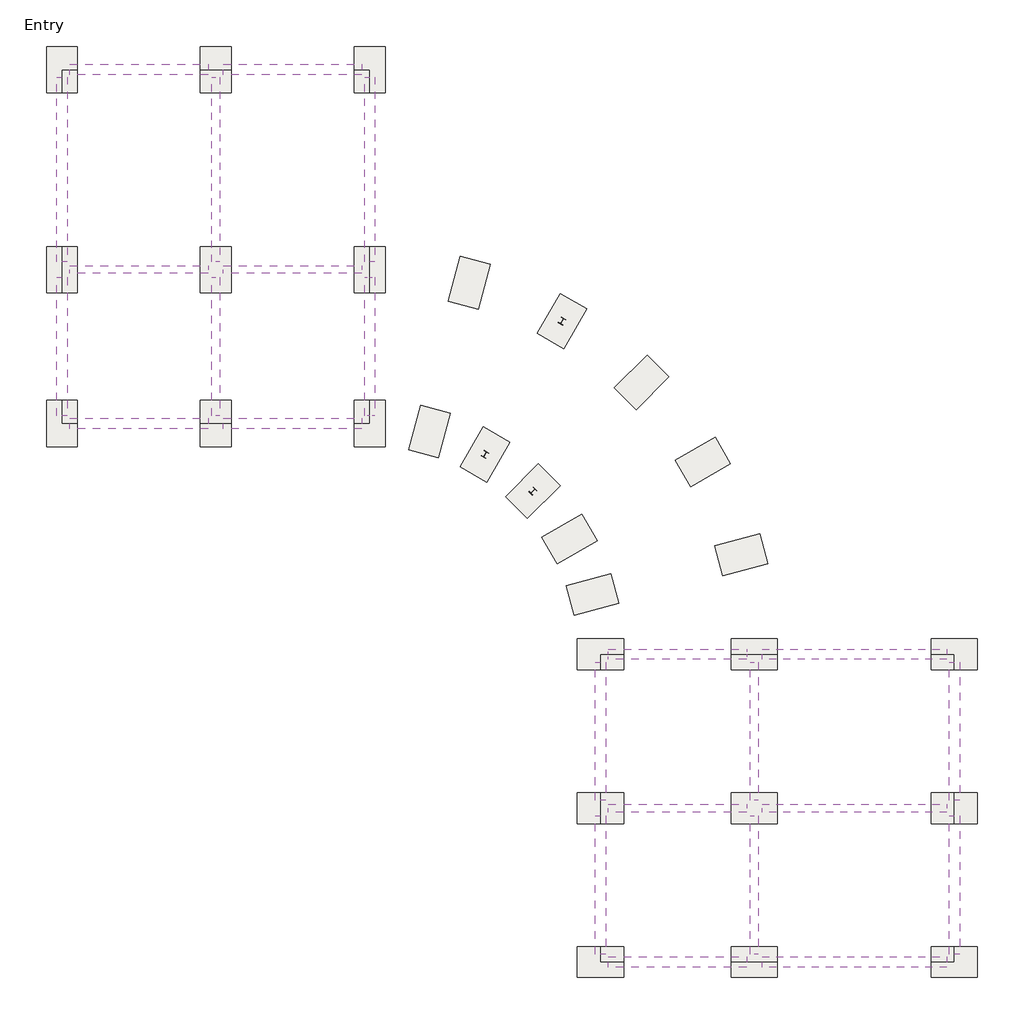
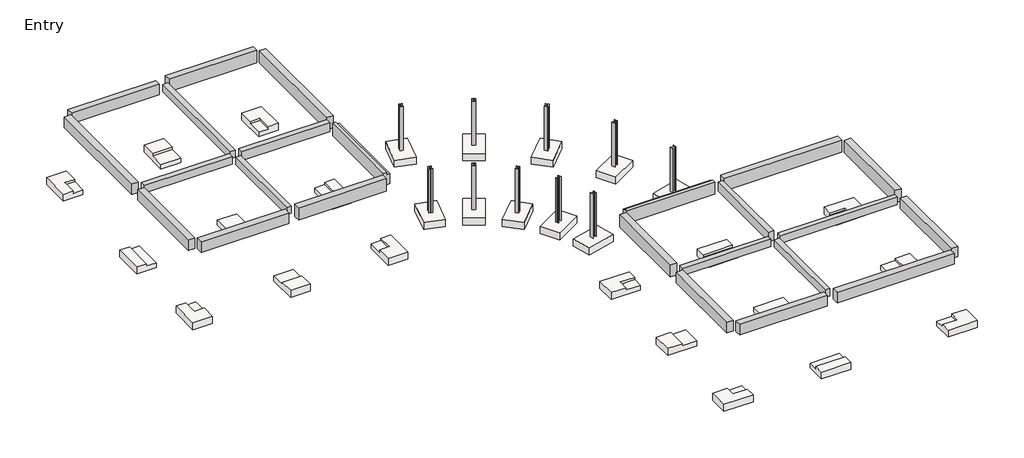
# One storey: 28 slabs, 24 beams, 10 columns.
"""IFC4 building model written with IfcOpenShell, lengths in millimetres."""

import ifcopenshell
import ifcopenshell.guid

model = None  # the IFC model being written
_history = None  # IfcOwnerHistory: only IFC2X3 demands one
_inside = {}  # id of a spatial element -> (the spatial element, [elements in it])
_under = {}  # id of a project, library or spatial element -> (it, [spatial elements below it])
_declared = {}  # id of a project -> (the project, [libraries it declares])
_typed = {}  # id of a type object -> (the type object, [elements of that type])
_made_of = {}  # id of a material, layer set ... -> (it, [elements and type objects made of it])


def new_model(schema):
    """Start an empty IFC model of exactly this schema.

    Asked for "IFC4X3", IfcOpenShell would pick the latest addendum, in which some entities
    have other attributes; the version numbers below select the first issue.
    IFC2X3 requires an IfcOwnerHistory on every rooted entity: one is made here for all.
    """
    global model, _history
    if schema == "IFC4X3":
        model = ifcopenshell.file(schema_version=(4, 3, 0, 0))
    else:
        model = ifcopenshell.file(schema=schema)
    _inside.clear()
    _under.clear()
    _declared.clear()
    _typed.clear()
    _made_of.clear()
    _history = None
    if model.schema == "IFC2X3":
        org = make("IfcOrganization", Name="unknown")
        user = make(
            "IfcPersonAndOrganization",
            ThePerson=make("IfcPerson", FamilyName="unknown"),
            TheOrganization=org,
        )
        app = make(
            "IfcApplication",
            ApplicationDeveloper=org,
            Version="unknown",
            ApplicationFullName="unknown",
            ApplicationIdentifier="unknown",
        )
        _history = make(
            "IfcOwnerHistory",
            OwningUser=user,
            OwningApplication=app,
            ChangeAction="ADDED",
            CreationDate=0,
        )
    return model


def make(cls, **values):
    """One entity of the class cls with the attributes given. An attribute that is None is left unset."""
    return model.create_entity(
        cls, **{name: value for name, value in values.items() if value is not None}
    )


def rooted(cls, **values):
    """An entity with a GlobalId (a new one), such as an element, a storey or a relation."""
    return make(cls, GlobalId=ifcopenshell.guid.new(), OwnerHistory=_history, **values)


def si_unit(unit_type, name, prefix=None):
    """IfcSIUnit, for example si_unit("LENGTHUNIT", "METRE", prefix="MILLI")."""
    return make("IfcSIUnit", UnitType=unit_type, Prefix=prefix, Name=name)


def assignment(units):
    """IfcUnitAssignment: the units of a project."""
    return None if units is None else make("IfcUnitAssignment", Units=units)


def point(xyz):
    """IfcCartesianPoint."""
    return None if xyz is None else make("IfcCartesianPoint", Coordinates=xyz)


def direction(xyz):
    """IfcDirection."""
    return None if xyz is None else make("IfcDirection", DirectionRatios=xyz)


def frame(location, z_axis=None, x_axis=None):
    """IfcAxis2Placement3D, a coordinate frame: its origin and axes. An axis left out is left unset."""
    return make(
        "IfcAxis2Placement3D",
        Location=point(location),
        Axis=direction(z_axis),
        RefDirection=direction(x_axis),
    )


def frame_2d(location, x_axis=None):
    """IfcAxis2Placement2D, a coordinate frame in the plane: its origin and x axis."""
    return make(
        "IfcAxis2Placement2D", Location=point(location), RefDirection=direction(x_axis)
    )


def origin():
    """The frame at (0, 0, 0) with its axes left unset."""
    return frame((0.0, 0.0, 0.0))


def origin_with_axes():
    """The frame at (0, 0, 0) with the z axis (0, 0, 1) and the x axis (1, 0, 0) written out."""
    return frame((0.0, 0.0, 0.0), z_axis=(0.0, 0.0, 1.0), x_axis=(1.0, 0.0, 0.0))


def place(relative_to, where):
    """IfcLocalPlacement: puts the frame where relative to a parent placement (None: the world)."""
    return make(
        "IfcLocalPlacement", PlacementRelTo=relative_to, RelativePlacement=where
    )


def context(
    kind, dimensions, precision=None, world=None, true_north=None, identifier=None
):
    """IfcGeometricRepresentationContext, for example the 3D "Model" context."""
    return make(
        "IfcGeometricRepresentationContext",
        ContextIdentifier=identifier,
        ContextType=kind,
        CoordinateSpaceDimension=dimensions,
        Precision=precision,
        WorldCoordinateSystem=world,
        TrueNorth=true_north,
    )


def project(units=None, contexts=None):
    """IfcProject with its units and contexts."""
    return rooted(
        "IfcProject",
        Name="project",
        RepresentationContexts=contexts,
        UnitsInContext=assignment(units),
    )


def spatial(cls, under=None, at=None, **own):
    """A site, building, storey or space (cls), placed at a placement, below another one or the project."""
    s = rooted(cls, ObjectPlacement=at, **own)
    if under is not None:
        _under.setdefault(under.id(), (under, []))[1].append(s)
    return s


def polyline(points):
    """IfcPolyline through the points."""
    return make("IfcPolyline", Points=[point(p) for p in points])


def circle_curve(where, radius):
    """IfcCircle in the frame where."""
    return make("IfcCircle", Position=where, Radius=radius)


def trimmed(basis, trim1, trim2, sense, master):
    """IfcTrimmedCurve: the piece of a basis curve between two trims."""
    return make(
        "IfcTrimmedCurve",
        BasisCurve=basis,
        Trim1=trim1,
        Trim2=trim2,
        SenseAgreement=sense,
        MasterRepresentation=master,
    )


def segment(curve, same_sense, transition):
    """IfcCompositeCurveSegment."""
    return make(
        "IfcCompositeCurveSegment",
        Transition=transition,
        SameSense=same_sense,
        ParentCurve=curve,
    )


def composite_curve(segments, self_intersect=None):
    """IfcCompositeCurve: segments joined end to end."""
    return make("IfcCompositeCurve", Segments=segments, SelfIntersect=self_intersect)


def outline(outer, holes=None, kind="AREA"):
    """IfcArbitraryClosedProfileDef: a profile drawn as a closed curve; with holes, ...WithVoids."""
    if holes is None:
        return make("IfcArbitraryClosedProfileDef", ProfileType=kind, OuterCurve=outer)
    return make(
        "IfcArbitraryProfileDefWithVoids",
        ProfileType=kind,
        OuterCurve=outer,
        InnerCurves=holes,
    )


def extrude(swept, where, along, depth):
    """IfcExtrudedAreaSolid: the profile swept, set in the frame where, extruded along a direction by depth."""
    return make(
        "IfcExtrudedAreaSolid",
        SweptArea=swept,
        Position=where,
        ExtrudedDirection=direction(along),
        Depth=depth,
    )


def faces_of(points, faces, orient=None, outer=None):
    """IfcFace entities. A face is a list of loops; a loop is a list of indices into points, from 0.

    orient and outer hold one flag for each loop. By default every Orientation is true, the
    first loop of a face is its IfcFaceOuterBound and the others are IfcFaceBound.
    """
    made = []
    for i, loops in enumerate(faces):
        bounds = []
        for j, loop in enumerate(loops):
            is_outer = j == 0 if outer is None else outer[i][j]
            bounds.append(
                make(
                    "IfcFaceOuterBound" if is_outer else "IfcFaceBound",
                    Bound=make("IfcPolyLoop", Polygon=[points[k] for k in loop]),
                    Orientation=True if orient is None else orient[i][j],
                )
            )
        made.append(make("IfcFace", Bounds=bounds))
    return made


def faceted_brep(points, faces, orient=None, outer=None, voids=None):
    """IfcFacetedBrep: a solid bounded by flat faces; with voids (closed shells), ...WithVoids."""
    shared = [point(p) for p in points]
    hull = make("IfcClosedShell", CfsFaces=faces_of(shared, faces, orient, outer))
    if voids is None:
        return make("IfcFacetedBrep", Outer=hull)
    return make(
        "IfcFacetedBrepWithVoids",
        Outer=hull,
        Voids=[
            make(cls, CfsFaces=faces_of(shared, fs, o, b)) for cls, fs, o, b in voids
        ],
    )


def shape(context_of_items, identifier, shape_type, items):
    """IfcShapeRepresentation: the items that make up one representation, for example the "Body"."""
    return make(
        "IfcShapeRepresentation",
        ContextOfItems=context_of_items,
        RepresentationIdentifier=identifier,
        RepresentationType=shape_type,
        Items=items,
    )


def source(mapping_origin, context_of_items, identifier, shape_type, items):
    """IfcRepresentationMap: a shape defined once, which mapped items show again and again."""
    return make(
        "IfcRepresentationMap",
        MappingOrigin=mapping_origin,
        MappedRepresentation=shape(context_of_items, identifier, shape_type, items),
    )


def transform(
    local_origin,
    x_axis=None,
    y_axis=None,
    z_axis=None,
    scale=None,
    scale2=None,
    scale3=None,
    uniform=True,
):
    """IfcCartesianTransformationOperator3D, or its non-uniform kind. x_axis, y_axis, z_axis: its Axis1, 2, 3."""
    if uniform:
        return make(
            "IfcCartesianTransformationOperator3D",
            Axis1=direction(x_axis),
            Axis2=direction(y_axis),
            LocalOrigin=point(local_origin),
            Scale=scale,
            Axis3=direction(z_axis),
        )
    return make(
        "IfcCartesianTransformationOperator3DnonUniform",
        Axis1=direction(x_axis),
        Axis2=direction(y_axis),
        LocalOrigin=point(local_origin),
        Scale=scale,
        Axis3=direction(z_axis),
        Scale2=scale2,
        Scale3=scale3,
    )


def mapped(mapping_source, mapping_target):
    """IfcMappedItem: shows the shape of a source again, moved by a transform."""
    return make(
        "IfcMappedItem", MappingSource=mapping_source, MappingTarget=mapping_target
    )


def made_of(thing, what):
    """Note that an element or type object is made of a material, layer set ...; save() writes the relation."""
    if what is not None:
        _made_of.setdefault(what.id(), (what, []))[1].append(thing)
    return thing


def element(
    cls,
    number,
    at=None,
    inside=None,
    cuts=None,
    type_object=None,
    material=None,
    context=None,
    identifier="Body",
    shape_type=None,
    held_by="IfcProductDefinitionShape",
    body=None,
    shapes=None,
    **own,
):
    """One element of the class cls, such as IfcWall. Its Tag is "e" and its number.

    at: its placement. inside: the storey or other place that contains it. cuts: it is an
    opening in that element (IfcRelVoidsElement). A single representation is given by context,
    identifier, shape_type and body (its items); several are given by shapes. held_by: the class
    of the entity that holds the representations. save() writes the other relations.
    """
    e = rooted(cls, Tag="e%d" % number, ObjectPlacement=at, **own)
    if body is not None:
        shapes = [shape(context, identifier, shape_type, body)]
    if shapes is not None:
        e.Representation = make(held_by, Representations=shapes)
    if inside is not None:
        _inside.setdefault(inside.id(), (inside, []))[1].append(e)
    if cuts is not None:
        rooted(
            "IfcRelVoidsElement", RelatingBuildingElement=cuts, RelatedOpeningElement=e
        )
    if type_object is not None:
        _typed.setdefault(type_object.id(), (type_object, []))[1].append(e)
    return made_of(e, material)


def aggregate(whole, parts):
    """IfcRelAggregates: a whole, such as a stair, and the parts it consists of."""
    return rooted("IfcRelAggregates", RelatingObject=whole, RelatedObjects=parts)


def save(model, path):
    """Write the relations noted so far, then the file.

    IfcRelAggregates (storeys below a building ...), IfcRelContainedInSpatialStructure (elements
    in a storey), IfcRelDefinesByType, IfcRelAssociatesMaterial and IfcRelDeclares: one each for
    every whole, place, type object, material and project.
    """
    for whole, parts in _under.values():
        aggregate(whole, parts)
    for where, things in _inside.values():
        rooted(
            "IfcRelContainedInSpatialStructure",
            RelatedElements=things,
            RelatingStructure=where,
        )
    for kind, things in _typed.values():
        rooted("IfcRelDefinesByType", RelatedObjects=things, RelatingType=kind)
    for what, things in _made_of.values():
        rooted("IfcRelAssociatesMaterial", RelatedObjects=things, RelatingMaterial=what)
    for by, libraries in _declared.values():
        rooted("IfcRelDeclares", RelatingContext=by, RelatedDefinitions=libraries)
    model.write(path)


def w_wide_flange_column_w10x33_dc02cfa5(model_context):
    return source(origin(), model_context, "Body", "SweptSolid", [
        extrude(outline(composite_curve([segment(polyline([(101.1039062, 123.5769531), (101.1039062, 112.5636719), (21.2328125, 112.5636719)]), True, "CONTINUOUS"), segment(trimmed(circle_curve(frame_2d((21.2328125, 95.0019531)), 17.5617188), [point((21.2328125, 112.5636719))], [point((3.6710937, 95.0019531))], True, "CARTESIAN"), True, "CONTINUOUS"), segment(polyline([(3.6710937, 95.0019531), (3.6710937, -95.0019531)]), True, "CONTINUOUS"), segment(trimmed(circle_curve(frame_2d((21.2328125, -95.0019531)), 17.5617188), [point((3.6710937, -95.0019531))], [point((21.2328125, -112.5636719))], True, "CARTESIAN"), True, "CONTINUOUS"), segment(polyline([(21.2328125, -112.5636719), (101.1039062, -112.5636719), (101.1039062, -123.5769531), (-101.1039063, -123.5769531), (-101.1039063, -112.5636719), (-21.2328125, -112.5636719)]), True, "CONTINUOUS"), segment(trimmed(circle_curve(frame_2d((-21.2328125, -95.0019531)), 17.5617188), [point((-21.2328125, -112.5636719))], [point((-3.6710938, -95.0019531))], True, "CARTESIAN"), True, "CONTINUOUS"), segment(polyline([(-3.6710938, -95.0019531), (-3.6710938, 95.0019531)]), True, "CONTINUOUS"), segment(trimmed(circle_curve(frame_2d((-21.2328125, 95.0019531)), 17.5617188), [point((-3.6710938, 95.0019531))], [point((-21.2328125, 112.5636719))], True, "CARTESIAN"), True, "CONTINUOUS"), segment(polyline([(-21.2328125, 112.5636719), (-101.1039063, 112.5636719), (-101.1039063, 123.5769531), (101.1039062, 123.5769531)]), True, "CONTINUOUS")], self_intersect=False)), origin_with_axes(), (0.0, 0.0, 1.0), 2921.0),
    ])


def slab_5ba74754(model_context):
    return source(origin(), model_context, "Body", "SweptSolid", [
        extrude(outline(polyline([(609.6, 914.4), (609.6, -914.4), (-609.6, -914.4), (-609.6, 914.4), (609.6, 914.4)])), frame((0.0, 0.0, -457.2), z_axis=(0.0, 0.0, 1.0), x_axis=(1.0, 0.0, 0.0)), (0.0, 0.0, 1.0), 457.2),
    ])


model = new_model("IFC4")

# Units and contexts
model_context = context("Model", 3, world=origin())
ifc_project = project(units=[si_unit("LENGTHUNIT", "METRE", prefix="MILLI")], contexts=[model_context])

# Site, building, storey
site = spatial("IfcSite", under=ifc_project)
building = spatial("IfcBuilding", under=site)
storey = spatial("IfcBuildingStorey", under=building, Name="Entry", Elevation=0.0)

# Beams
placement = place(None, origin())
element("IfcBeam", 1, ObjectType="Concrete-Rectangular Beam : 12 x 24", at=placement, inside=storey, context=model_context, shape_type="SweptSolid", body=[
    extrude(outline(polyline([(-34903.4783408, 12122.2963551), (-34598.6783408, 12122.2963551), (-34598.6783408, 4807.0963551), (-34903.4783408, 4807.0963551), (-34903.4783408, 12122.2963551)])), frame((0.0, 0.0, 2438.4), z_axis=(0.0, 0.0, 1.0), x_axis=(1.0, 0.0, 0.0)), (0.0, 0.0, 1.0), 488.95),
])
element("IfcBeam", 2, ObjectType="Concrete-Rectangular Beam : 12 x 24", at=placement, inside=storey, context=model_context, shape_type="SweptSolid", body=[
    extrude(outline(polyline([(-34903.4783408, 4197.4963551), (-34598.6783408, 4197.4963551), (-34598.6783408, -1288.9036449), (-34903.4783408, -1288.9036449), (-34903.4783408, 4197.4963551)])), frame((0.0, 0.0, 2438.4), z_axis=(0.0, 0.0, 1.0), x_axis=(1.0, 0.0, 0.0)), (0.0, 0.0, 1.0), 488.95),
])
element("IfcBeam", 3, ObjectType="Concrete-Rectangular Beam : 12 x 24", at=placement, inside=storey, context=model_context, shape_type="SweptSolid", body=[
    extrude(outline(polyline([(-35055.8783408, 4654.6963551), (-35055.8783408, 4349.8963551), (-40542.2783408, 4349.8963551), (-40542.2783408, 4654.6963551), (-35055.8783408, 4654.6963551)])), frame((0.0, 0.0, 2438.4), z_axis=(0.0, 0.0, 1.0), x_axis=(1.0, 0.0, 0.0)), (0.0, 0.0, 1.0), 488.95),
])
element("IfcBeam", 4, ObjectType="Concrete-Rectangular Beam : 12 x 24", at=placement, inside=storey, context=model_context, shape_type="SweptSolid", body=[
    extrude(outline(polyline([(-34446.2783408, 4349.8963551), (-34446.2783408, 4654.6963551), (-28959.8783408, 4654.6963551), (-28959.8783408, 4349.8963551), (-34446.2783408, 4349.8963551)])), frame((0.0, 0.0, 2438.4), z_axis=(0.0, 0.0, 1.0), x_axis=(1.0, 0.0, 0.0)), (0.0, 0.0, 1.0), 609.6),
])
element("IfcBeam", 5, ObjectType="Concrete-Rectangular Beam : 12 x 24", at=placement, inside=storey, context=model_context, shape_type="SweptSolid", body=[
    extrude(outline(polyline([(-13110.2783408, -16986.1036449), (-13110.2783408, -16681.3036449), (-5795.0783408, -16681.3036449), (-5795.0783408, -16986.1036449), (-13110.2783408, -16986.1036449)])), frame((0.0, 0.0, 2438.4), z_axis=(0.0, 0.0, 1.0), x_axis=(1.0, 0.0, 0.0)), (0.0, 0.0, 1.0), 488.95),
])
element("IfcBeam", 6, ObjectType="Concrete-Rectangular Beam : 12 x 24", at=placement, inside=storey, context=model_context, shape_type="SweptSolid", body=[
    extrude(outline(polyline([(-19206.2783408, -16986.1036449), (-19206.2783408, -16681.3036449), (-13719.8783408, -16681.3036449), (-13719.8783408, -16986.1036449), (-19206.2783408, -16986.1036449)])), frame((0.0, 0.0, 2438.4), z_axis=(0.0, 0.0, 1.0), x_axis=(1.0, 0.0, 0.0)), (0.0, 0.0, 1.0), 488.95),
])
element("IfcBeam", 7, ObjectType="Concrete-Rectangular Beam : 12 x 24", at=placement, inside=storey, context=model_context, shape_type="SweptSolid", body=[
    extrude(outline(polyline([(-13567.4783408, -17138.5036449), (-13262.6783408, -17138.5036449), (-13262.6783408, -22624.9036449), (-13567.4783408, -22624.9036449), (-13567.4783408, -17138.5036449)])), frame((0.0, 0.0, 2438.4), z_axis=(0.0, 0.0, 1.0), x_axis=(1.0, 0.0, 0.0)), (0.0, 0.0, 1.0), 488.95),
])
element("IfcBeam", 8, ObjectType="Concrete-Rectangular Beam : 12 x 24", at=placement, inside=storey, context=model_context, shape_type="SweptSolid", body=[
    extrude(outline(polyline([(-13262.6783408, -16528.9036449), (-13567.4783408, -16528.9036449), (-13567.4783408, -11042.5036449), (-13262.6783408, -11042.5036449), (-13262.6783408, -16528.9036449)])), frame((0.0, 0.0, 2438.4), z_axis=(0.0, 0.0, 1.0), x_axis=(1.0, 0.0, 0.0)), (0.0, 0.0, 1.0), 609.6),
])
element("IfcBeam", 9, ObjectType="Concrete-Rectangular Beam : 16 x 32", at=placement, inside=storey, context=model_context, shape_type="SweptSolid", body=[
    extrude(outline(polyline([(-40542.2783408, 12223.8963551), (-40542.2783408, 12630.2963551), (-35055.8783408, 12630.2963551), (-35055.8783408, 12223.8963551), (-40542.2783408, 12223.8963551)])), frame((0.0, 0.0, 2235.2), z_axis=(0.0, 0.0, 1.0), x_axis=(1.0, 0.0, 0.0)), (0.0, 0.0, 1.0), 692.15),
])
element("IfcBeam", 10, ObjectType="Concrete-Rectangular Beam : 16 x 32", at=placement, inside=storey, context=model_context, shape_type="SweptSolid", body=[
    extrude(outline(polyline([(-34446.2783408, 12223.8963551), (-34446.2783408, 12630.2963551), (-28959.8783408, 12630.2963551), (-28959.8783408, 12223.8963551), (-34446.2783408, 12223.8963551)])), frame((0.0, 0.0, 2235.2), z_axis=(0.0, 0.0, 1.0), x_axis=(1.0, 0.0, 0.0)), (0.0, 0.0, 1.0), 812.8),
])
element("IfcBeam", 11, ObjectType="Concrete-Rectangular Beam : 16 x 32", at=placement, inside=storey, context=model_context, shape_type="SweptSolid", body=[
    extrude(outline(polyline([(-28451.8783408, 4807.0963551), (-28858.2783408, 4807.0963551), (-28858.2783408, 12122.2963551), (-28451.8783408, 12122.2963551), (-28451.8783408, 4807.0963551)])), frame((0.0, 0.0, 2235.2), z_axis=(0.0, 0.0, 1.0), x_axis=(1.0, 0.0, 0.0)), (0.0, 0.0, 1.0), 812.8),
])
element("IfcBeam", 12, ObjectType="Concrete-Rectangular Beam : 16 x 32", at=placement, inside=storey, context=model_context, shape_type="SweptSolid", body=[
    extrude(outline(polyline([(3048.0, -28858.2783408), (2235.2, -28858.2783408), (2235.2, -28451.8783408), (2921.0, -28451.8783408), (2921.0, -28655.0783408), (3048.0, -28655.0783408), (3048.0, -28858.2783408)])), frame((0.0, -1288.9036449, 0.0), z_axis=(0.0, 1.0, 0.0), x_axis=(0.0, 0.0, 1.0)), (0.0, 0.0, 1.0), 5486.4),
])
element("IfcBeam", 13, ObjectType="Concrete-Rectangular Beam : 16 x 32", at=placement, inside=storey, context=model_context, shape_type="SweptSolid", body=[
    extrude(outline(polyline([(-34446.2783408, -1796.9036449), (-34446.2783408, -1390.5036449), (-28959.8783408, -1390.5036449), (-28959.8783408, -1796.9036449), (-34446.2783408, -1796.9036449)])), frame((0.0, 0.0, 2235.2), z_axis=(0.0, 0.0, 1.0), x_axis=(1.0, 0.0, 0.0)), (0.0, 0.0, 1.0), 812.8),
])
element("IfcBeam", 14, ObjectType="Concrete-Rectangular Beam : 16 x 32", at=placement, inside=storey, context=model_context, shape_type="SweptSolid", body=[
    extrude(outline(polyline([(-35055.8783408, -1390.5036449), (-35055.8783408, -1796.9036449), (-40542.2783408, -1796.9036449), (-40542.2783408, -1390.5036449), (-35055.8783408, -1390.5036449)])), frame((0.0, 0.0, 2235.2), z_axis=(0.0, 0.0, 1.0), x_axis=(1.0, 0.0, 0.0)), (0.0, 0.0, 1.0), 692.15),
])
element("IfcBeam", 15, ObjectType="Concrete-Rectangular Beam : 16 x 32", at=placement, inside=storey, context=model_context, shape_type="SweptSolid", body=[
    extrude(outline(polyline([(-40643.8783408, -1288.9036449), (-41050.2783408, -1288.9036449), (-41050.2783408, 4197.4963551), (-40643.8783408, 4197.4963551), (-40643.8783408, -1288.9036449)])), frame((0.0, 0.0, 2235.2), z_axis=(0.0, 0.0, 1.0), x_axis=(1.0, 0.0, 0.0)), (0.0, 0.0, 1.0), 692.15),
])
element("IfcBeam", 16, ObjectType="Concrete-Rectangular Beam : 16 x 32", at=placement, inside=storey, context=model_context, shape_type="SweptSolid", body=[
    extrude(outline(polyline([(-40643.8783408, 4807.0963551), (-41050.2783408, 4807.0963551), (-41050.2783408, 12122.2963551), (-40643.8783408, 12122.2963551), (-40643.8783408, 4807.0963551)])), frame((0.0, 0.0, 2235.2), z_axis=(0.0, 0.0, 1.0), x_axis=(1.0, 0.0, 0.0)), (0.0, 0.0, 1.0), 692.15),
])
element("IfcBeam", 17, ObjectType="Concrete-Rectangular Beam : 16 x 32", at=placement, inside=storey, context=model_context, shape_type="SweptSolid", body=[
    extrude(outline(polyline([(-5693.4783408, -17138.5036449), (-5287.0783408, -17138.5036449), (-5287.0783408, -22624.9036449), (-5693.4783408, -22624.9036449), (-5693.4783408, -17138.5036449)])), frame((0.0, 0.0, 2235.2), z_axis=(0.0, 0.0, 1.0), x_axis=(1.0, 0.0, 0.0)), (0.0, 0.0, 1.0), 692.15),
])
element("IfcBeam", 18, ObjectType="Concrete-Rectangular Beam : 16 x 32", at=placement, inside=storey, context=model_context, shape_type="SweptSolid", body=[
    extrude(outline(polyline([(-5287.0783408, -16528.9036449), (-5693.4783408, -16528.9036449), (-5693.4783408, -11042.5036449), (-5287.0783408, -11042.5036449), (-5287.0783408, -16528.9036449)])), frame((0.0, 0.0, 2235.2), z_axis=(0.0, 0.0, 1.0), x_axis=(1.0, 0.0, 0.0)), (0.0, 0.0, 1.0), 812.8),
])
element("IfcBeam", 19, ObjectType="Concrete-Rectangular Beam : 16 x 32", at=placement, inside=storey, context=model_context, shape_type="SweptSolid", body=[
    extrude(outline(polyline([(-13110.2783408, -10940.9036449), (-13110.2783408, -10534.5036449), (-5795.0783408, -10534.5036449), (-5795.0783408, -10940.9036449), (-13110.2783408, -10940.9036449)])), frame((0.0, 0.0, 2235.2), z_axis=(0.0, 0.0, 1.0), x_axis=(1.0, 0.0, 0.0)), (0.0, 0.0, 1.0), 812.8),
])
element("IfcBeam", 20, ObjectType="Concrete-Rectangular Beam : 16 x 32", at=placement, inside=storey, context=model_context, shape_type="SweptSolid", body=[
    extrude(outline(polyline([(-10940.9036449, 3048.0), (-10737.7036449, 3048.0), (-10737.7036449, 2921.0), (-10534.5036449, 2921.0), (-10534.5036449, 2235.2), (-10940.9036449, 2235.2), (-10940.9036449, 3048.0)])), frame((-19206.2783408, 0.0, 0.0), z_axis=(1.0, 0.0, 0.0), x_axis=(0.0, 1.0, 0.0)), (0.0, 0.0, 1.0), 5486.4),
])
element("IfcBeam", 21, ObjectType="Concrete-Rectangular Beam : 16 x 32", at=placement, inside=storey, context=model_context, shape_type="SweptSolid", body=[
    extrude(outline(polyline([(-19307.8783408, -16528.9036449), (-19714.2783408, -16528.9036449), (-19714.2783408, -11042.5036449), (-19307.8783408, -11042.5036449), (-19307.8783408, -16528.9036449)])), frame((0.0, 0.0, 2235.2), z_axis=(0.0, 0.0, 1.0), x_axis=(1.0, 0.0, 0.0)), (0.0, 0.0, 1.0), 812.8),
])
element("IfcBeam", 22, ObjectType="Concrete-Rectangular Beam : 16 x 32", at=placement, inside=storey, context=model_context, shape_type="SweptSolid", body=[
    extrude(outline(polyline([(-19714.2783408, -17138.5036449), (-19307.8783408, -17138.5036449), (-19307.8783408, -22624.9036449), (-19714.2783408, -22624.9036449), (-19714.2783408, -17138.5036449)])), frame((0.0, 0.0, 2235.2), z_axis=(0.0, 0.0, 1.0), x_axis=(1.0, 0.0, 0.0)), (0.0, 0.0, 1.0), 692.15),
])
element("IfcBeam", 23, ObjectType="Concrete-Rectangular Beam : 16 x 32", at=placement, inside=storey, context=model_context, shape_type="SweptSolid", body=[
    extrude(outline(polyline([(-19206.2783408, -23132.9036449), (-19206.2783408, -22726.5036449), (-13719.8783408, -22726.5036449), (-13719.8783408, -23132.9036449), (-19206.2783408, -23132.9036449)])), frame((0.0, 0.0, 2235.2), z_axis=(0.0, 0.0, 1.0), x_axis=(1.0, 0.0, 0.0)), (0.0, 0.0, 1.0), 692.15),
])
element("IfcBeam", 24, ObjectType="Concrete-Rectangular Beam : 16 x 32", at=placement, inside=storey, context=model_context, shape_type="SweptSolid", body=[
    extrude(outline(polyline([(-13110.2783408, -23132.9036449), (-13110.2783408, -22726.5036449), (-5795.0783408, -22726.5036449), (-5795.0783408, -23132.9036449), (-13110.2783408, -23132.9036449)])), frame((0.0, 0.0, 2235.2), z_axis=(0.0, 0.0, 1.0), x_axis=(1.0, 0.0, 0.0)), (0.0, 0.0, 1.0), 692.15),
])

# Columns
w_wide_flange_column_w10x33_shape = w_wide_flange_column_w10x33_dc02cfa5(model_context)
element("IfcColumn", 25, ObjectType="W-Wide Flange-Column : W10X33", at=placement, inside=storey, context=model_context, shape_type="MappedRepresentation", body=[
    mapped(w_wide_flange_column_w10x33_shape, transform((-20736.1420486, -6165.7036449, 0.0), x_axis=(-0.4999999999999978, 0.8660254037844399, 0.0), y_axis=(-0.8660254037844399, -0.4999999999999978, 0.0), z_axis=(0.0, 0.0, 1.0))),
])
element("IfcColumn", 26, ObjectType="W-Wide Flange-Column : W10X33", at=placement, inside=storey, context=model_context, shape_type="MappedRepresentation", body=[
    mapped(w_wide_flange_column_w10x33_shape, transform((-24083.0783408, -2818.7673527, 0.0), x_axis=(0.8660254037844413, -0.49999999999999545, 0.0), y_axis=(0.49999999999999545, 0.8660254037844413, 0.0), z_axis=(0.0, 0.0, 1.0))),
])
element("IfcColumn", 27, ObjectType="W-Wide Flange-Column : W10X33", at=placement, inside=storey, context=model_context, shape_type="MappedRepresentation", body=[
    mapped(w_wide_flange_column_w10x33_shape, transform((-26288.4369924, -1905.2778893, 0.0), x_axis=(0.9659258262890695, -0.258819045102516, 0.0), y_axis=(0.258819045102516, 0.9659258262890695, 0.0), z_axis=(0.0, 0.0, 1.0))),
])
element("IfcColumn", 28, ObjectType="W-Wide Flange-Column : W10X33", at=placement, inside=storey, context=model_context, shape_type="MappedRepresentation", body=[
    mapped(w_wide_flange_column_w10x33_shape, transform((-15456.8511871, -3117.7036449, 0.0), x_axis=(-0.4999999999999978, 0.8660254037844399, 0.0), y_axis=(-0.8660254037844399, -0.4999999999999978, 0.0), z_axis=(0.0, 0.0, 1.0))),
])
element("IfcColumn", 29, ObjectType="W-Wide Flange-Column : W10X33", at=placement, inside=storey, context=model_context, shape_type="MappedRepresentation", body=[
    mapped(w_wide_flange_column_w10x33_shape, transform((-21035.0783408, 2460.5235088, 0.0), x_axis=(0.8660254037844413, -0.49999999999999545, 0.0), y_axis=(0.49999999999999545, 0.8660254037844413, 0.0), z_axis=(0.0, 0.0, 1.0))),
])
element("IfcColumn", 30, ObjectType="W-Wide Flange-Column : W10X33", at=placement, inside=storey, context=model_context, shape_type="MappedRepresentation", body=[
    mapped(w_wide_flange_column_w10x33_shape, transform((-24710.6760935, 3983.0059477, 0.0), x_axis=(0.9659258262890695, -0.258819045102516, 0.0), y_axis=(0.258819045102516, 0.9659258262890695, 0.0), z_axis=(0.0, 0.0, 1.0))),
])
element("IfcColumn", 31, ObjectType="W-Wide Flange-Column : W10X33", at=placement, inside=storey, context=model_context, shape_type="MappedRepresentation", body=[
    mapped(w_wide_flange_column_w10x33_shape, transform((-22189.2939336, -4271.9192377, 0.0), x_axis=(0.7071067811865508, -0.7071067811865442, 0.0), y_axis=(0.7071067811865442, 0.7071067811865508, 0.0), z_axis=(0.0, 0.0, 1.0))),
])
element("IfcColumn", 32, ObjectType="W-Wide Flange-Column : W10X33", at=placement, inside=storey, context=model_context, shape_type="MappedRepresentation", body=[
    mapped(w_wide_flange_column_w10x33_shape, transform((-17878.7709955, 38.6037004, 0.0), x_axis=(0.7071067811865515, -0.7071067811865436, 0.0), y_axis=(0.7071067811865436, 0.7071067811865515, 0.0), z_axis=(0.0, 0.0, 1.0))),
])
element("IfcColumn", 33, ObjectType="W-Wide Flange-Column : W10X33", at=placement, inside=storey, context=model_context, shape_type="MappedRepresentation", body=[
    mapped(w_wide_flange_column_w10x33_shape, transform((-19822.6525852, -8371.0622965, 0.0), x_axis=(-0.2588190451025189, 0.9659258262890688, 0.0), y_axis=(-0.9659258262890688, -0.2588190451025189, 0.0), z_axis=(0.0, 0.0, 1.0))),
])
element("IfcColumn", 34, ObjectType="W-Wide Flange-Column : W10X33", at=placement, inside=storey, context=model_context, shape_type="MappedRepresentation", body=[
    mapped(w_wide_flange_column_w10x33_shape, transform((-13934.3687482, -6793.3013975, 0.0), x_axis=(-0.2588190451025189, 0.9659258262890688, 0.0), y_axis=(-0.9659258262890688, -0.2588190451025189, 0.0), z_axis=(0.0, 0.0, 1.0))),
])

# Slabs
element("IfcSlab", 35, ObjectType="Footing-Rectangular : 72\" x 48\" x 18\"", at=placement, inside=storey, context=model_context, shape_type="Brep", body=[
    faceted_brep([(-40237.4783408, 13341.4963551, -1676.4), (-41456.6783408, 13341.4963551, -1676.4), (-41456.6783408, 11512.6963551, -1676.4), (-40847.0783408, 11512.6963551, -1676.4), (-40847.0783408, 12427.0963551, -1676.4), (-40237.4783408, 12427.0963551, -1676.4), (-41456.6783408, 11512.6963551, -2133.6), (-41456.6783408, 13341.4963551, -2133.6), (-40237.4783408, 13341.4963551, -2133.6), (-40237.4783408, 11512.6963551, -2133.6), (-40237.4783408, 11512.6963551, -1828.8), (-40847.0783408, 11512.6963551, -1828.8), (-40237.4783408, 12427.0963551, -1828.8), (-40847.0783408, 12427.0963551, -1828.8)], [[[0, 1, 2, 3, 4, 5]], [[6, 7, 8, 9]], [[6, 9, 10, 11, 3, 2]], [[9, 8, 0, 5, 12, 10]], [[1, 0, 8, 7]], [[2, 1, 7, 6]], [[12, 13, 11, 10]], [[13, 4, 3, 11]], [[4, 13, 12, 5]]]),
])
element("IfcSlab", 36, ObjectType="Footing-Rectangular : 72\" x 48\" x 18\"", at=placement, inside=storey, context=model_context, shape_type="SweptSolid", body=[
    extrude(outline(polyline([(13341.4963551, -2133.6), (11512.6963551, -2133.6), (11512.6963551, -1828.8), (12427.0963551, -1828.8), (12427.0963551, -1676.4), (13341.4963551, -1676.4), (13341.4963551, -2133.6)])), frame((-35360.6783408, 0.0, 0.0), z_axis=(1.0, 0.0, 0.0), x_axis=(0.0, 1.0, 0.0)), (0.0, 0.0, 1.0), 1219.2),
])
element("IfcSlab", 37, ObjectType="Footing-Rectangular : 72\" x 48\" x 18\"", at=placement, inside=storey, context=model_context, shape_type="Brep", body=[
    faceted_brep([(-28045.4783408, 11512.6963551, -1676.4), (-28045.4783408, 13341.4963551, -1676.4), (-29264.6783408, 13341.4963551, -1676.4), (-29264.6783408, 12427.0963551, -1676.4), (-28655.0783408, 12427.0963551, -1676.4), (-28655.0783408, 11512.6963551, -1676.4), (-29264.6783408, 11512.6963551, -2133.6), (-29264.6783408, 13341.4963551, -2133.6), (-28045.4783408, 13341.4963551, -2133.6), (-28045.4783408, 11512.6963551, -2133.6), (-28655.0783408, 11512.6963551, -1828.8), (-29264.6783408, 11512.6963551, -1828.8), (-29264.6783408, 12427.0963551, -1828.8), (-28655.0783408, 12427.0963551, -1828.8)], [[[0, 1, 2, 3, 4, 5]], [[6, 7, 8, 9]], [[6, 9, 0, 5, 10, 11]], [[1, 0, 9, 8]], [[2, 1, 8, 7]], [[7, 6, 11, 12, 3, 2]], [[13, 12, 11, 10]], [[4, 13, 10, 5]], [[13, 4, 3, 12]]]),
])
element("IfcSlab", 38, ObjectType="Footing-Rectangular : 72\" x 48\" x 18\"", at=placement, inside=storey, context=model_context, shape_type="SweptSolid", body=[
    extrude(outline(polyline([(-2133.6, -29264.6783408), (-2133.6, -28045.4783408), (-1676.4, -28045.4783408), (-1676.4, -28655.0783408), (-1828.8, -28655.0783408), (-1828.8, -29264.6783408), (-2133.6, -29264.6783408)])), frame((0.0, 3587.8963551, 0.0), z_axis=(0.0, 1.0, 0.0), x_axis=(0.0, 0.0, 1.0)), (0.0, 0.0, 1.0), 1828.8),
])
element("IfcSlab", 39, ObjectType="Footing-Rectangular : 72\" x 48\" x 18\"", at=placement, inside=storey, context=model_context, shape_type="SweptSolid", body=[
    extrude(outline(polyline([(-35360.6783408, 3587.8963551), (-35360.6783408, 5416.6963551), (-34141.4783408, 5416.6963551), (-34141.4783408, 3587.8963551), (-35360.6783408, 3587.8963551)])), frame((0.0, 0.0, -2133.6), z_axis=(0.0, 0.0, 1.0), x_axis=(1.0, 0.0, 0.0)), (0.0, 0.0, 1.0), 304.8),
])
element("IfcSlab", 40, ObjectType="Footing-Rectangular : 72\" x 48\" x 18\"", at=placement, inside=storey, context=model_context, shape_type="SweptSolid", body=[
    extrude(outline(polyline([(-2133.6, -41456.6783408), (-2133.6, -40237.4783408), (-1828.8, -40237.4783408), (-1828.8, -40847.0783408), (-1676.4, -40847.0783408), (-1676.4, -41456.6783408), (-2133.6, -41456.6783408)])), frame((0.0, 3587.8963551, 0.0), z_axis=(0.0, 1.0, 0.0), x_axis=(0.0, 0.0, 1.0)), (0.0, 0.0, 1.0), 1828.8),
])
element("IfcSlab", 41, ObjectType="Footing-Rectangular : 72\" x 48\" x 18\"", at=placement, inside=storey, context=model_context, shape_type="Brep", body=[
    faceted_brep([(-29264.6783408, -2508.1036449, -1676.4), (-28045.4783408, -2508.1036449, -1676.4), (-28045.4783408, -679.3036449, -1676.4), (-28655.0783408, -679.3036449, -1676.4), (-28655.0783408, -1593.7036449, -1676.4), (-29264.6783408, -1593.7036449, -1676.4), (-29264.6783408, -2508.1036449, -2133.6), (-29264.6783408, -679.3036449, -2133.6), (-28045.4783408, -679.3036449, -2133.6), (-28045.4783408, -2508.1036449, -2133.6), (-29264.6783408, -679.3036449, -1828.8), (-28655.0783408, -679.3036449, -1828.8), (-29264.6783408, -1593.7036449, -1828.8), (-28655.0783408, -1593.7036449, -1828.8)], [[[0, 1, 2, 3, 4, 5]], [[6, 7, 8, 9]], [[1, 0, 6, 9]], [[2, 1, 9, 8]], [[8, 7, 10, 11, 3, 2]], [[7, 6, 0, 5, 12, 10]], [[12, 13, 11, 10]], [[13, 4, 3, 11]], [[4, 13, 12, 5]]]),
])
element("IfcSlab", 42, ObjectType="Footing-Rectangular : 72\" x 48\" x 18\"", at=placement, inside=storey, context=model_context, shape_type="SweptSolid", body=[
    extrude(outline(polyline([(-679.3036449, -2133.6), (-2508.1036449, -2133.6), (-2508.1036449, -1676.4), (-1593.7036449, -1676.4), (-1593.7036449, -1828.8), (-679.3036449, -1828.8), (-679.3036449, -2133.6)])), frame((-35360.6783408, 0.0, 0.0), z_axis=(1.0, 0.0, 0.0), x_axis=(0.0, 1.0, 0.0)), (0.0, 0.0, 1.0), 1219.2),
])
element("IfcSlab", 43, ObjectType="Footing-Rectangular : 72\" x 48\" x 18\"", at=placement, inside=storey, context=model_context, shape_type="Brep", body=[
    faceted_brep([(-41456.6783408, -2508.1036449, -1676.4), (-40237.4783408, -2508.1036449, -1676.4), (-40237.4783408, -1593.7036449, -1676.4), (-40847.0783408, -1593.7036449, -1676.4), (-40847.0783408, -679.3036449, -1676.4), (-41456.6783408, -679.3036449, -1676.4), (-41456.6783408, -2508.1036449, -2133.6), (-41456.6783408, -679.3036449, -2133.6), (-40237.4783408, -679.3036449, -2133.6), (-40237.4783408, -2508.1036449, -2133.6), (-40237.4783408, -679.3036449, -1828.8), (-40237.4783408, -1593.7036449, -1828.8), (-40847.0783408, -679.3036449, -1828.8), (-40847.0783408, -1593.7036449, -1828.8)], [[[0, 1, 2, 3, 4, 5]], [[6, 7, 8, 9]], [[1, 0, 6, 9]], [[9, 8, 10, 11, 2, 1]], [[8, 7, 5, 4, 12, 10]], [[0, 5, 7, 6]], [[12, 13, 11, 10]], [[13, 3, 2, 11]], [[3, 13, 12, 4]]]),
])
element("IfcSlab", 44, ObjectType="Footing-Rectangular : 72\" x 48\" x 18\"", at=placement, inside=storey, context=model_context, shape_type="Brep", body=[
    faceted_brep([(-4575.8783408, -23539.3036449, -1676.4), (-4575.8783408, -22320.1036449, -1676.4), (-5490.2783408, -22320.1036449, -1676.4), (-5490.2783408, -22929.7036449, -1676.4), (-6404.6783408, -22929.7036449, -1676.4), (-6404.6783408, -23539.3036449, -1676.4), (-4575.8783408, -23539.3036449, -2133.6), (-6404.6783408, -23539.3036449, -2133.6), (-6404.6783408, -22320.1036449, -2133.6), (-4575.8783408, -22320.1036449, -2133.6), (-6404.6783408, -22929.7036449, -1828.8), (-6404.6783408, -22320.1036449, -1828.8), (-5490.2783408, -22320.1036449, -1828.8), (-5490.2783408, -22929.7036449, -1828.8)], [[[0, 1, 2, 3, 4, 5]], [[6, 7, 8, 9]], [[8, 7, 5, 4, 10, 11]], [[9, 8, 11, 12, 2, 1]], [[1, 0, 6, 9]], [[0, 5, 7, 6]], [[10, 13, 12, 11]], [[3, 13, 10, 4]], [[13, 3, 2, 12]]]),
])
element("IfcSlab", 45, ObjectType="Footing-Rectangular : 72\" x 48\" x 18\"", at=placement, inside=storey, context=model_context, shape_type="SweptSolid", body=[
    extrude(outline(polyline([(-2133.6, -6404.6783408), (-2133.6, -4575.8783408), (-1676.4, -4575.8783408), (-1676.4, -5490.2783408), (-1828.8, -5490.2783408), (-1828.8, -6404.6783408), (-2133.6, -6404.6783408)])), frame((0.0, -17443.3036449, 0.0), z_axis=(0.0, 1.0, 0.0), x_axis=(0.0, 0.0, 1.0)), (0.0, 0.0, 1.0), 1219.2),
])
element("IfcSlab", 46, ObjectType="Footing-Rectangular : 72\" x 48\" x 18\"", at=placement, inside=storey, context=model_context, shape_type="Brep", body=[
    faceted_brep([(-4575.8783408, -10128.1036449, -1676.4), (-6404.6783408, -10128.1036449, -1676.4), (-6404.6783408, -10737.7036449, -1676.4), (-5490.2783408, -10737.7036449, -1676.4), (-5490.2783408, -11347.3036449, -1676.4), (-4575.8783408, -11347.3036449, -1676.4), (-4575.8783408, -11347.3036449, -2133.6), (-6404.6783408, -11347.3036449, -2133.6), (-6404.6783408, -10128.1036449, -2133.6), (-4575.8783408, -10128.1036449, -2133.6), (-6404.6783408, -11347.3036449, -1828.8), (-6404.6783408, -10737.7036449, -1828.8), (-5490.2783408, -11347.3036449, -1828.8), (-5490.2783408, -10737.7036449, -1828.8)], [[[0, 1, 2, 3, 4, 5]], [[6, 7, 8, 9]], [[8, 7, 10, 11, 2, 1]], [[1, 0, 9, 8]], [[0, 5, 6, 9]], [[7, 6, 5, 4, 12, 10]], [[13, 11, 10, 12]], [[13, 3, 2, 11]], [[3, 13, 12, 4]]]),
])
element("IfcSlab", 47, ObjectType="Footing-Rectangular : 72\" x 48\" x 18\"", at=placement, inside=storey, context=model_context, shape_type="SweptSolid", body=[
    extrude(outline(polyline([(-10128.1036449, -2133.6), (-11347.3036449, -2133.6), (-11347.3036449, -1828.8), (-10737.7036449, -1828.8), (-10737.7036449, -1676.4), (-10128.1036449, -1676.4), (-10128.1036449, -2133.6)])), frame((-14329.4783408, 0.0, 0.0), z_axis=(1.0, 0.0, 0.0), x_axis=(0.0, 1.0, 0.0)), (0.0, 0.0, 1.0), 1828.8),
])
element("IfcSlab", 48, ObjectType="Footing-Rectangular : 72\" x 48\" x 18\"", at=placement, inside=storey, context=model_context, shape_type="SweptSolid", body=[
    extrude(outline(polyline([(-12500.6783408, -17443.3036449), (-14329.4783408, -17443.3036449), (-14329.4783408, -16224.1036449), (-12500.6783408, -16224.1036449), (-12500.6783408, -17443.3036449)])), frame((0.0, 0.0, -2133.6), z_axis=(0.0, 0.0, 1.0), x_axis=(1.0, 0.0, 0.0)), (0.0, 0.0, 1.0), 304.8),
])
element("IfcSlab", 49, ObjectType="Footing-Rectangular : 72\" x 48\" x 18\"", at=placement, inside=storey, context=model_context, shape_type="SweptSolid", body=[
    extrude(outline(polyline([(-22320.1036449, -2133.6), (-23539.3036449, -2133.6), (-23539.3036449, -1676.4), (-22929.7036449, -1676.4), (-22929.7036449, -1828.8), (-22320.1036449, -1828.8), (-22320.1036449, -2133.6)])), frame((-14329.4783408, 0.0, 0.0), z_axis=(1.0, 0.0, 0.0), x_axis=(0.0, 1.0, 0.0)), (0.0, 0.0, 1.0), 1828.8),
])
element("IfcSlab", 50, ObjectType="Footing-Rectangular : 72\" x 48\" x 18\"", at=placement, inside=storey, context=model_context, shape_type="Brep", body=[
    faceted_brep([(-20425.4783408, -10128.1036449, -1676.4), (-20425.4783408, -11347.3036449, -1676.4), (-19511.0783408, -11347.3036449, -1676.4), (-19511.0783408, -10737.7036449, -1676.4), (-18596.6783408, -10737.7036449, -1676.4), (-18596.6783408, -10128.1036449, -1676.4), (-18596.6783408, -11347.3036449, -2133.6), (-20425.4783408, -11347.3036449, -2133.6), (-20425.4783408, -10128.1036449, -2133.6), (-18596.6783408, -10128.1036449, -2133.6), (-18596.6783408, -10737.7036449, -1828.8), (-18596.6783408, -11347.3036449, -1828.8), (-19511.0783408, -11347.3036449, -1828.8), (-19511.0783408, -10737.7036449, -1828.8)], [[[0, 1, 2, 3, 4, 5]], [[6, 7, 8, 9]], [[1, 0, 8, 7]], [[0, 5, 9, 8]], [[6, 9, 5, 4, 10, 11]], [[7, 6, 11, 12, 2, 1]], [[10, 13, 12, 11]], [[3, 13, 10, 4]], [[13, 3, 2, 12]]]),
])
element("IfcSlab", 51, ObjectType="Footing-Rectangular : 72\" x 48\" x 18\"", at=placement, inside=storey, context=model_context, shape_type="SweptSolid", body=[
    extrude(outline(polyline([(-2133.6, -20425.4783408), (-2133.6, -18596.6783408), (-1828.8, -18596.6783408), (-1828.8, -19511.0783408), (-1676.4, -19511.0783408), (-1676.4, -20425.4783408), (-2133.6, -20425.4783408)])), frame((0.0, -17443.3036449, 0.0), z_axis=(0.0, 1.0, 0.0), x_axis=(0.0, 0.0, 1.0)), (0.0, 0.0, 1.0), 1219.2),
])
element("IfcSlab", 52, ObjectType="Footing-Rectangular : 72\" x 48\" x 18\"", at=placement, inside=storey, context=model_context, shape_type="Brep", body=[
    faceted_brep([(-20425.4783408, -22320.1036449, -1676.4), (-20425.4783408, -23539.3036449, -1676.4), (-18596.6783408, -23539.3036449, -1676.4), (-18596.6783408, -22929.7036449, -1676.4), (-19511.0783408, -22929.7036449, -1676.4), (-19511.0783408, -22320.1036449, -1676.4), (-18596.6783408, -23539.3036449, -2133.6), (-20425.4783408, -23539.3036449, -2133.6), (-20425.4783408, -22320.1036449, -2133.6), (-18596.6783408, -22320.1036449, -2133.6), (-19511.0783408, -22320.1036449, -1828.8), (-18596.6783408, -22320.1036449, -1828.8), (-18596.6783408, -22929.7036449, -1828.8), (-19511.0783408, -22929.7036449, -1828.8)], [[[0, 1, 2, 3, 4, 5]], [[6, 7, 8, 9]], [[1, 0, 8, 7]], [[9, 8, 0, 5, 10, 11]], [[6, 9, 11, 12, 3, 2]], [[2, 1, 7, 6]], [[10, 13, 12, 11]], [[4, 13, 10, 5]], [[13, 4, 3, 12]]]),
])
slab_shape = slab_5ba74754(model_context)
element("IfcSlab", 53, ObjectType="Footing-Rectangular : 72\" x 48\" x 18\"", at=placement, inside=storey, context=model_context, shape_type="MappedRepresentation", body=[
    mapped(slab_shape, transform((-21035.0783408, 2460.5235088, 0.0), x_axis=(0.8660254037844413, -0.49999999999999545, 0.0), y_axis=(0.49999999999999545, 0.8660254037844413, 0.0), z_axis=(0.0, 0.0, 1.0))),
])
element("IfcSlab", 54, ObjectType="Footing-Rectangular : 72\" x 48\" x 18\"", at=placement, inside=storey, context=model_context, shape_type="MappedRepresentation", body=[
    mapped(slab_shape, transform((-24710.6760935, 3983.0059477, 0.0), x_axis=(0.9659258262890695, -0.258819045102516, 0.0), y_axis=(0.258819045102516, 0.9659258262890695, 0.0), z_axis=(0.0, 0.0, 1.0))),
])
element("IfcSlab", 55, ObjectType="Footing-Rectangular : 72\" x 48\" x 18\"", at=placement, inside=storey, context=model_context, shape_type="MappedRepresentation", body=[
    mapped(slab_shape, transform((-17878.7709955, 38.6037004, 0.0), x_axis=(0.7071067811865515, -0.7071067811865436, 0.0), y_axis=(0.7071067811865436, 0.7071067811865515, 0.0), z_axis=(0.0, 0.0, 1.0))),
])
element("IfcSlab", 56, ObjectType="Footing-Rectangular : 72\" x 48\" x 18\"", at=placement, inside=storey, context=model_context, shape_type="MappedRepresentation", body=[
    mapped(slab_shape, transform((-15456.8511871, -3117.7036449, 0.0), x_axis=(-0.4999999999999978, 0.8660254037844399, 0.0), y_axis=(-0.8660254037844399, -0.4999999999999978, 0.0), z_axis=(0.0, 0.0, 1.0))),
])
element("IfcSlab", 57, ObjectType="Footing-Rectangular : 72\" x 48\" x 18\"", at=placement, inside=storey, context=model_context, shape_type="MappedRepresentation", body=[
    mapped(slab_shape, transform((-13934.3687482, -6793.3013975, 0.0), x_axis=(-0.2588190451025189, 0.9659258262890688, 0.0), y_axis=(-0.9659258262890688, -0.2588190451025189, 0.0), z_axis=(0.0, 0.0, 1.0))),
])
element("IfcSlab", 58, ObjectType="Footing-Rectangular : 72\" x 48\" x 18\"", at=placement, inside=storey, context=model_context, shape_type="MappedRepresentation", body=[
    mapped(slab_shape, transform((-26288.4369924, -1905.2778893, 0.0), x_axis=(0.9659258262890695, -0.258819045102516, 0.0), y_axis=(0.258819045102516, 0.9659258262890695, 0.0), z_axis=(0.0, 0.0, 1.0))),
])
element("IfcSlab", 59, ObjectType="Footing-Rectangular : 72\" x 48\" x 18\"", at=placement, inside=storey, context=model_context, shape_type="MappedRepresentation", body=[
    mapped(slab_shape, transform((-24083.0783408, -2818.7673527, 0.0), x_axis=(0.8660254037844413, -0.49999999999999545, 0.0), y_axis=(0.49999999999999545, 0.8660254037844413, 0.0), z_axis=(0.0, 0.0, 1.0))),
])
element("IfcSlab", 60, ObjectType="Footing-Rectangular : 72\" x 48\" x 18\"", at=placement, inside=storey, context=model_context, shape_type="MappedRepresentation", body=[
    mapped(slab_shape, transform((-22189.2939336, -4271.9192377, 0.0), x_axis=(0.7071067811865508, -0.7071067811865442, 0.0), y_axis=(0.7071067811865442, 0.7071067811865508, 0.0), z_axis=(0.0, 0.0, 1.0))),
])
element("IfcSlab", 61, ObjectType="Footing-Rectangular : 72\" x 48\" x 18\"", at=placement, inside=storey, context=model_context, shape_type="MappedRepresentation", body=[
    mapped(slab_shape, transform((-20736.1420486, -6165.7036449, 0.0), x_axis=(-0.4999999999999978, 0.8660254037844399, 0.0), y_axis=(-0.8660254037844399, -0.4999999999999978, 0.0), z_axis=(0.0, 0.0, 1.0))),
])
element("IfcSlab", 62, ObjectType="Footing-Rectangular : 72\" x 48\" x 18\"", at=placement, inside=storey, context=model_context, shape_type="MappedRepresentation", body=[
    mapped(slab_shape, transform((-19822.6525852, -8371.0622965, 0.0), x_axis=(-0.2588190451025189, 0.9659258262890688, 0.0), y_axis=(-0.9659258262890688, -0.2588190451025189, 0.0), z_axis=(0.0, 0.0, 1.0))),
])

save(model, "model.ifc")
